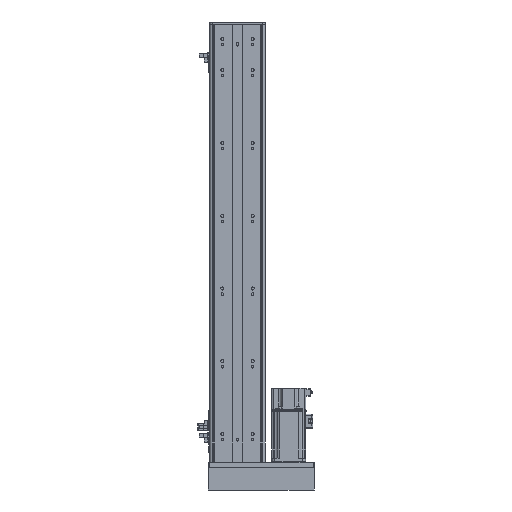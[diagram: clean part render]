
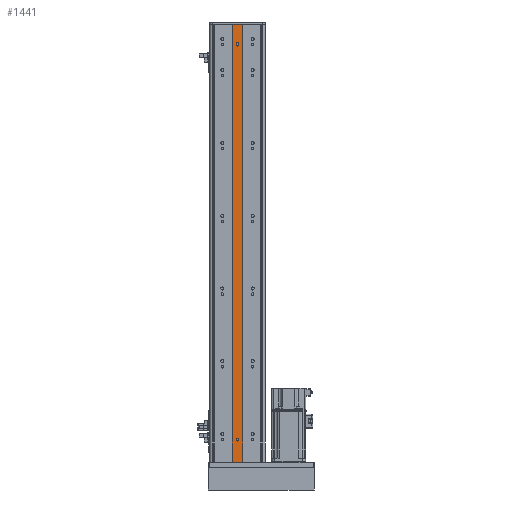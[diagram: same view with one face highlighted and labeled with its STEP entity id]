
A CAD part, front view. The second image highlights one B-rep face of the part: STEP entity #1441.
In plain terms, the highlighted planar face has unit normal (0, -1, 0).
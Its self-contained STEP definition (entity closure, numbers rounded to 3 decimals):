
#763 = ORIENTED_EDGE ( 'NONE', *, *, #33260, .F. ) ;
#1441 = ADVANCED_FACE ( 'NONE', ( #39098, #52572, #7174 ), #44375, .F. ) ;
#1447 = CARTESIAN_POINT ( 'NONE',  ( 0., 1.309, 170. ) ) ;
#1648 = CARTESIAN_POINT ( 'NONE',  ( -2.5, 1.309, 911. ) ) ;
#1895 = AXIS2_PLACEMENT_3D ( 'NONE', #19902, #19425, #46929 ) ;
#1961 = VERTEX_POINT ( 'NONE', #38969 ) ;
#2615 = CARTESIAN_POINT ( 'NONE',  ( 2.5, 1.309, 170. ) ) ;
#3126 = AXIS2_PLACEMENT_3D ( 'NONE', #8240, #61356, #67026 ) ;
#4851 = AXIS2_PLACEMENT_3D ( 'NONE', #6365, #11734, #22540 ) ;
#5141 = CARTESIAN_POINT ( 'NONE',  ( -2.5, 1.309, 875.5 ) ) ;
#5301 = VERTEX_POINT ( 'NONE', #20615 ) ;
#6365 = CARTESIAN_POINT ( 'NONE',  ( 0., 1.309, 911. ) ) ;
#6945 = LINE ( 'NONE', #1648, #22904 ) ;
#7174 = FACE_OUTER_BOUND ( 'NONE', #24806, .T. ) ;
#7779 = DIRECTION ( 'NONE',  ( 0., 1., 0. ) ) ;
#8080 = EDGE_CURVE ( 'NONE', #27728, #5301, #68466, .T. ) ;
#8240 = CARTESIAN_POINT ( 'NONE',  ( 0., 1.309, 876.5 ) ) ;
#8872 = CIRCLE ( 'NONE', #3126, 2.5 ) ;
#9379 = CIRCLE ( 'NONE', #51919, 2.5 ) ;
#11734 = DIRECTION ( 'NONE',  ( 0., 1., 0. ) ) ;
#11787 = CARTESIAN_POINT ( 'NONE',  ( 0., 1.309, 130. ) ) ;
#13594 = CARTESIAN_POINT ( 'NONE',  ( 0., 1.309, 875.5 ) ) ;
#15139 = CARTESIAN_POINT ( 'NONE',  ( -2.5, 1.309, 876.5 ) ) ;
#16393 = DIRECTION ( 'NONE',  ( 0., 0., -1. ) ) ;
#16936 = ORIENTED_EDGE ( 'NONE', *, *, #24474, .T. ) ;
#17525 = LINE ( 'NONE', #32615, #39367 ) ;
#17866 = DIRECTION ( 'NONE',  ( 0., 1., 0. ) ) ;
#19215 = VERTEX_POINT ( 'NONE', #15139 ) ;
#19425 = DIRECTION ( 'NONE',  ( 0., 1., 0. ) ) ;
#19902 = CARTESIAN_POINT ( 'NONE',  ( 0., 1.309, 170. ) ) ;
#19923 = ORIENTED_EDGE ( 'NONE', *, *, #67049, .F. ) ;
#20021 = VERTEX_POINT ( 'NONE', #51690 ) ;
#20270 = EDGE_CURVE ( 'NONE', #20021, #1961, #47427, .T. ) ;
#20279 = EDGE_LOOP ( 'NONE', ( #16936, #29374, #66224, #43017 ) ) ;
#20615 = CARTESIAN_POINT ( 'NONE',  ( 2.5, 1.309, 875.5 ) ) ;
#21771 = ORIENTED_EDGE ( 'NONE', *, *, #20270, .T. ) ;
#22192 = VECTOR ( 'NONE', #49373, 1000. ) ;
#22540 = DIRECTION ( 'NONE',  ( 0., 0., 1. ) ) ;
#22904 = VECTOR ( 'NONE', #60917, 1000. ) ;
#24195 = DIRECTION ( 'NONE',  ( 0., 0., 1. ) ) ;
#24474 = EDGE_CURVE ( 'NONE', #37903, #19215, #6945, .T. ) ;
#24806 = EDGE_LOOP ( 'NONE', ( #19923, #763, #37942, #21771 ) ) ;
#25273 = EDGE_LOOP ( 'NONE', ( #29319, #63749 ) ) ;
#26633 = VERTEX_POINT ( 'NONE', #51364 ) ;
#27359 = CARTESIAN_POINT ( 'NONE',  ( 9., 1.309, 911. ) ) ;
#27728 = VERTEX_POINT ( 'NONE', #51140 ) ;
#29319 = ORIENTED_EDGE ( 'NONE', *, *, #55349, .T. ) ;
#29374 = ORIENTED_EDGE ( 'NONE', *, *, #42312, .T. ) ;
#30510 = CIRCLE ( 'NONE', #1895, 2.5 ) ;
#31830 = VERTEX_POINT ( 'NONE', #27359 ) ;
#32258 = EDGE_CURVE ( 'NONE', #20021, #31830, #58052, .T. ) ;
#32615 = CARTESIAN_POINT ( 'NONE',  ( 9., 1.309, 911. ) ) ;
#33260 = EDGE_CURVE ( 'NONE', #31830, #26633, #17525, .T. ) ;
#33843 = DIRECTION ( 'NONE',  ( 1., 0., 0. ) ) ;
#37903 = VERTEX_POINT ( 'NONE', #5141 ) ;
#37942 = ORIENTED_EDGE ( 'NONE', *, *, #32258, .F. ) ;
#38502 = CARTESIAN_POINT ( 'NONE',  ( -9., 1.309, 911. ) ) ;
#38969 = CARTESIAN_POINT ( 'NONE',  ( -9., 1.309, 130. ) ) ;
#39098 = FACE_BOUND ( 'NONE', #20279, .T. ) ;
#39367 = VECTOR ( 'NONE', #16393, 1000. ) ;
#42312 = EDGE_CURVE ( 'NONE', #19215, #27728, #8872, .T. ) ;
#43017 = ORIENTED_EDGE ( 'NONE', *, *, #50138, .T. ) ;
#44375 = PLANE ( 'NONE',  #4851 ) ;
#46929 = DIRECTION ( 'NONE',  ( 0., 0., 1. ) ) ;
#47427 = LINE ( 'NONE', #38502, #60095 ) ;
#49373 = DIRECTION ( 'NONE',  ( -1., 0., 0. ) ) ;
#50138 = EDGE_CURVE ( 'NONE', #5301, #37903, #50858, .T. ) ;
#50858 = CIRCLE ( 'NONE', #69696, 2.5 ) ;
#51140 = CARTESIAN_POINT ( 'NONE',  ( 2.5, 1.309, 876.5 ) ) ;
#51364 = CARTESIAN_POINT ( 'NONE',  ( 9., 1.309, 130. ) ) ;
#51690 = CARTESIAN_POINT ( 'NONE',  ( -9., 1.309, 911. ) ) ;
#51919 = AXIS2_PLACEMENT_3D ( 'NONE', #1447, #17866, #60935 ) ;
#52457 = DIRECTION ( 'NONE',  ( 0., 0., -1. ) ) ;
#52572 = FACE_BOUND ( 'NONE', #25273, .T. ) ;
#52694 = CARTESIAN_POINT ( 'NONE',  ( 2.5, 1.309, 911. ) ) ;
#52999 = VECTOR ( 'NONE', #33843, 1000. ) ;
#53236 = VERTEX_POINT ( 'NONE', #2615 ) ;
#53984 = EDGE_CURVE ( 'NONE', #55452, #53236, #30510, .T. ) ;
#54139 = VECTOR ( 'NONE', #52457, 1000. ) ;
#55032 = CARTESIAN_POINT ( 'NONE',  ( -9., 1.309, 911. ) ) ;
#55349 = EDGE_CURVE ( 'NONE', #53236, #55452, #9379, .T. ) ;
#55452 = VERTEX_POINT ( 'NONE', #67254 ) ;
#58052 = LINE ( 'NONE', #55032, #52999 ) ;
#60095 = VECTOR ( 'NONE', #64625, 1000. ) ;
#60917 = DIRECTION ( 'NONE',  ( 0., 0., 1. ) ) ;
#60935 = DIRECTION ( 'NONE',  ( 0., 0., 1. ) ) ;
#61356 = DIRECTION ( 'NONE',  ( 0., 1., 0. ) ) ;
#63749 = ORIENTED_EDGE ( 'NONE', *, *, #53984, .T. ) ;
#64625 = DIRECTION ( 'NONE',  ( 0., 0., -1. ) ) ;
#66224 = ORIENTED_EDGE ( 'NONE', *, *, #8080, .T. ) ;
#67026 = DIRECTION ( 'NONE',  ( 0., 0., 1. ) ) ;
#67049 = EDGE_CURVE ( 'NONE', #26633, #1961, #68502, .T. ) ;
#67254 = CARTESIAN_POINT ( 'NONE',  ( -2.5, 1.309, 170. ) ) ;
#68466 = LINE ( 'NONE', #52694, #54139 ) ;
#68502 = LINE ( 'NONE', #11787, #22192 ) ;
#69696 = AXIS2_PLACEMENT_3D ( 'NONE', #13594, #7779, #24195 ) ;
